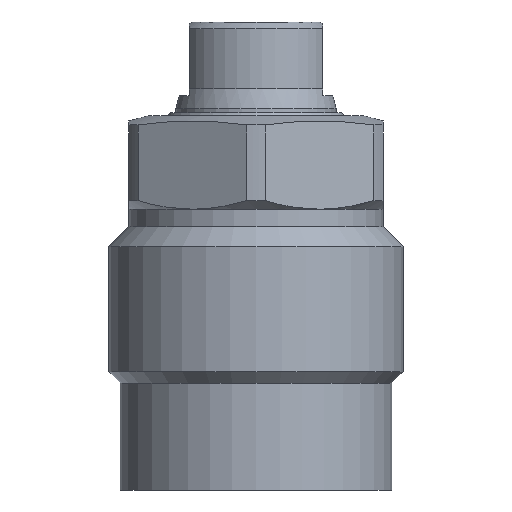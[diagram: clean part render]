
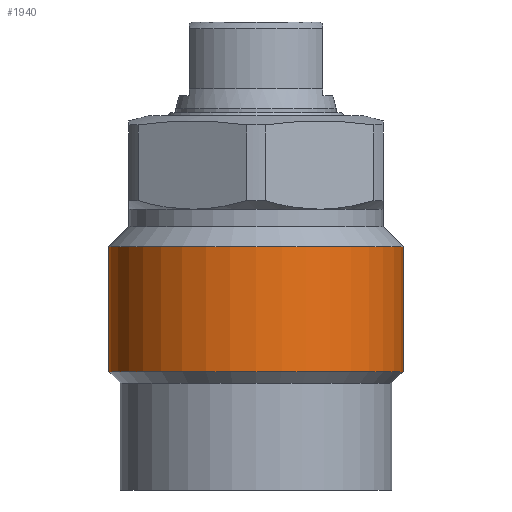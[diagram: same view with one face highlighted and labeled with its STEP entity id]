
A CAD part, front view. The second image highlights one B-rep face of the part: STEP entity #1940.
In plain terms, the highlighted cylindrical face has radius 11 mm (diameter 22 mm), a partial arc.
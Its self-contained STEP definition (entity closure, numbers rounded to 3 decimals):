
#1877=CARTESIAN_POINT('',(-11.0,0.0,-19.15));
#1878=VERTEX_POINT('',#1877);
#1886=CARTESIAN_POINT('',(11.0,0.0,-19.15));
#1887=VERTEX_POINT('',#1886);
#1894=CARTESIAN_POINT('',(0.0,0.0,-19.15));
#1895=DIRECTION('',(0.0,0.0,1.0));
#1896=DIRECTION('',(1.0,0.0,0.0));
#1897=AXIS2_PLACEMENT_3D('',#1894,#1895,#1896);
#1898=CIRCLE('',#1897,11.0);
#1899=EDGE_CURVE('no 2680',#1878,#1887,#1898,.T.);
#1909=CARTESIAN_POINT('',(-11.,0.0,-9.8));
#1910=VERTEX_POINT('',#1909);
#1911=CARTESIAN_POINT('',(-11.,-0.0,-19.15));
#1912=DIRECTION('',(0.,-0.0,1.0));
#1913=VECTOR('',#1912,1.0);
#1914=LINE('',#1911,#1913);
#1915=EDGE_CURVE('no 2690',#1878,#1910,#1914,.T.);
#1916=ORIENTED_EDGE('',*,*,#1915,.F.);
#1917=ORIENTED_EDGE('',*,*,#1899,.T.);
#1918=CARTESIAN_POINT('',(11.,0.0,-9.8));
#1919=VERTEX_POINT('',#1918);
#1920=CARTESIAN_POINT('',(11.,0.0,-19.15));
#1921=DIRECTION('',(0.,0.0,1.0));
#1922=VECTOR('',#1921,1.0);
#1923=LINE('',#1920,#1922);
#1924=EDGE_CURVE('no 2698',#1887,#1919,#1923,.T.);
#1925=ORIENTED_EDGE('',*,*,#1924,.T.);
#1926=CARTESIAN_POINT('',(0.0,0.0,-9.8));
#1927=DIRECTION('',(0.0,0.0,1.0));
#1928=DIRECTION('',(1.0,0.0,0.0));
#1929=AXIS2_PLACEMENT_3D('',#1926,#1927,#1928);
#1930=CIRCLE('',#1929,11.);
#1931=EDGE_CURVE('no 2702',#1910,#1919,#1930,.T.);
#1932=ORIENTED_EDGE('',*,*,#1931,.F.);
#1933=EDGE_LOOP('',(#1916,#1917,#1925,#1932));
#1934=FACE_OUTER_BOUND('',#1933,.T.);
#1935=CARTESIAN_POINT('',(0.0,0.0,3.426));
#1936=DIRECTION('',(0.0,0.0,1.0));
#1937=DIRECTION('',(-0.0,1.0,0.0));
#1938=AXIS2_PLACEMENT_3D('',#1935,#1936,#1937);
#1939=CYLINDRICAL_SURFACE('',#1938,11.);
#1940=ADVANCED_FACE('no 2683',(#1934),#1939,.T.);
